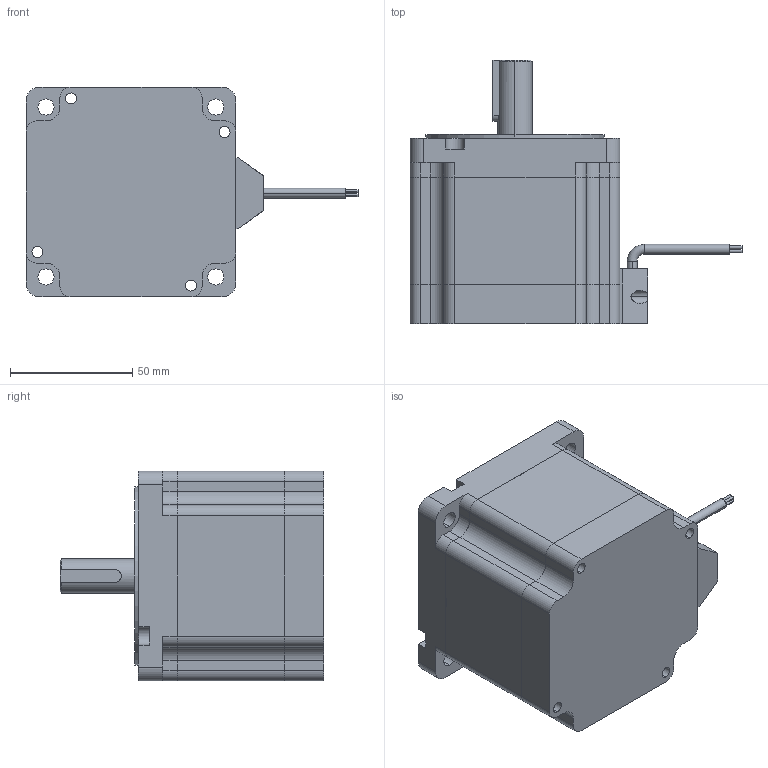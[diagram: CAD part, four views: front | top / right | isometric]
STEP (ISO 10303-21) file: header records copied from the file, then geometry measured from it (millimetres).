
FILE_DESCRIPTION (( 'STEP AP214' ), '1' );
FILE_NAME ('86HS276-6004-XXX.STEP', '2023-06-13T07:45:03', ( 'MM' ), ( 'Microsoft' ), 'SwSTEP 2.0', 'SolidWorks 2020', '' );
FILE_SCHEMA (( 'AUTOMOTIVE_DESIGN' ));
Length unit declared in the file: millimetre
Products named in the file (1): 86HS276-6004-XXX
Bounding box: 136 x 108 x 86 mm (x, y, z)
Volume: 520647 mm3; surface area: 53454.2 mm2
Topology: 2 solids, 2 shells, 217 faces, 582 edges, 381 vertices
Faces by surface type: cylinder 109, plane 90, torus 10, cone 8
Entity records: 8133 total; most frequent: DIRECTION 1257, CARTESIAN_POINT 1230, ORIENTED_EDGE 1164, EDGE_CURVE 582, AXIS2_PLACEMENT_3D 464, VERTEX_POINT 381, LINE 329, VECTOR 329
